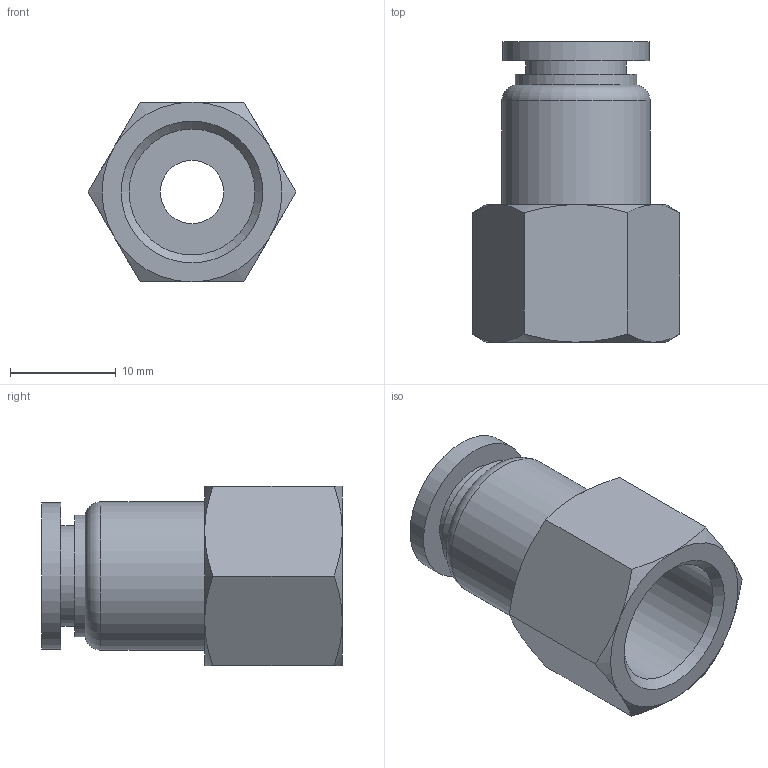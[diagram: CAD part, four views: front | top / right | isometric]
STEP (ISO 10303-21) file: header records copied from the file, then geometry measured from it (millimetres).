
FILE_DESCRIPTION(/* description */ (''),/* implementation_level */ '2;1');
FILE_NAME(/* name */ 'S:\_Tecnico\ArchivioUT\_Disegni3D ingombri\DISEGNI 3D per ingombri\RP\RP 52\RP521408.stp',/* time_stamp */ '2019-07-29T16:28:21+02:00',/* author */ ('ufficiotecnico3'),/* organization */ (''),/* preprocessor_version */ 'ST-DEVELOPER v18',/* originating_system */ 'Autodesk Inventor 2020',/* authorisation */ '');
FILE_SCHEMA (('AUTOMOTIVE_DESIGN { 1 0 10303 214 3 1 1 }'));
Length unit declared in the file: millimetre
Products named in the file (1): RP521408
Bounding box: 19.63 x 28.4 x 17 mm (x, y, z)
Volume: 3337.1 mm3; surface area: 2793.1 mm2
Topology: 1 solids, 1 shells, 34 faces, 78 edges, 51 vertices
Faces by surface type: cone 13, plane 13, cylinder 7, torus 1
Full cylindrical faces by diameter (mm): 6 x1, 8 x1, 9.5 x1, 11.5 x1, 11.89 x1, 13.8 x1, 14 x1
Entity records: 999 total; most frequent: CARTESIAN_POINT 212, DIRECTION 164, ORIENTED_EDGE 156, EDGE_CURVE 78, AXIS2_PLACEMENT_3D 75, VERTEX_POINT 51, EDGE_LOOP 41, CIRCLE 40
